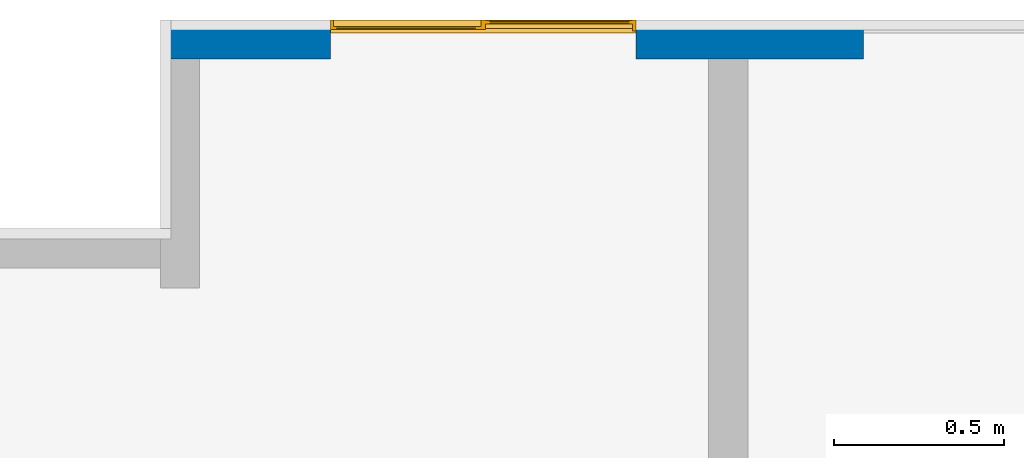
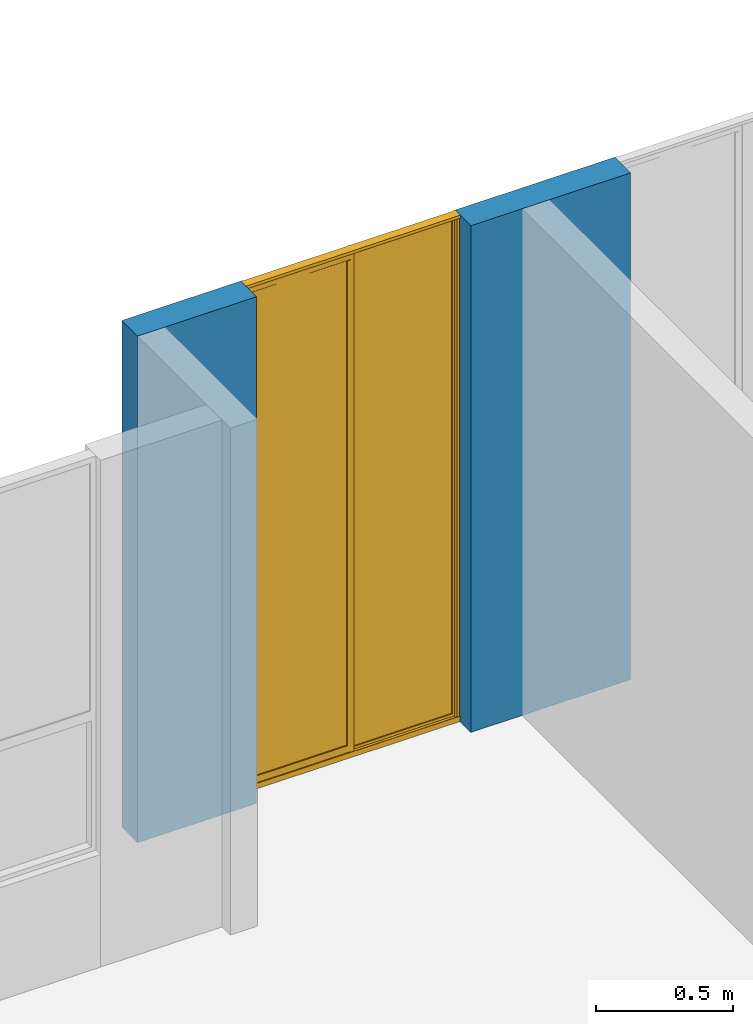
# One storey, part 24 of 48: 1 wall, 1 window, 2 openings.
"""IFC4 building model written with IfcOpenShell, lengths in metres."""

from ifc_helpers import new_model, entity, si_unit, converted_unit, derived_unit, direction, frame, origin, place, context, subcontext, project, spatial, indexed_curve, outline, extrude, polygons, source, transform, mapped, material, constituent, constituent_set, type_object, type_shapes, element, fill, save


model = new_model("IFC4")

# Units and contexts
model_context = context("Model", 3, precision=1e-05, world=origin(), true_north=direction((6.123031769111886e-17, 1.0)))
body_context = subcontext(model_context, "Body", "Model", "MODEL_VIEW")
ifc_project = project(units=[si_unit("LENGTHUNIT", "METRE"), si_unit("AREAUNIT", "SQUARE_METRE"), si_unit("VOLUMEUNIT", "CUBIC_METRE"), converted_unit("PLANEANGLEUNIT", "DEGREE", entity("IfcRatioMeasure", 0.017453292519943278), si_unit("PLANEANGLEUNIT", "RADIAN"), dimensions=[0, 0, 0, 0, 0, 0, 0]), si_unit("MASSUNIT", "GRAM", prefix="KILO"), derived_unit("MASSDENSITYUNIT", [(si_unit("MASSUNIT", "GRAM", prefix="KILO"), 1), (si_unit("LENGTHUNIT", "METRE"), -3)]), derived_unit("IONCONCENTRATIONUNIT", [(si_unit("MASSUNIT", "GRAM", prefix="KILO"), 1), (si_unit("LENGTHUNIT", "METRE"), -3)]), derived_unit("MOMENTOFINERTIAUNIT", [(si_unit("LENGTHUNIT", "METRE"), 4)]), si_unit("TIMEUNIT", "SECOND"), si_unit("FREQUENCYUNIT", "HERTZ"), si_unit("THERMODYNAMICTEMPERATUREUNIT", "DEGREE_CELSIUS"), derived_unit("THERMALTRANSMITTANCEUNIT", [(si_unit("MASSUNIT", "GRAM", prefix="KILO"), 1), (si_unit("THERMODYNAMICTEMPERATUREUNIT", "KELVIN"), -1), (si_unit("TIMEUNIT", "SECOND"), -3)]), derived_unit("THERMALCONDUCTANCEUNIT", [(si_unit("MASSUNIT", "GRAM", prefix="KILO"), 1), (si_unit("THERMODYNAMICTEMPERATUREUNIT", "KELVIN"), -1), (si_unit("TIMEUNIT", "SECOND"), -3), (si_unit("LENGTHUNIT", "METRE"), 1)]), derived_unit("VOLUMETRICFLOWRATEUNIT", [(si_unit("LENGTHUNIT", "METRE"), 3), (si_unit("TIMEUNIT", "SECOND"), -1)]), derived_unit("MASSFLOWRATEUNIT", [(si_unit("MASSUNIT", "GRAM", prefix="KILO"), 1), (si_unit("TIMEUNIT", "SECOND"), -1)]), derived_unit("ROTATIONALFREQUENCYUNIT", [(si_unit("TIMEUNIT", "SECOND"), -1)]), si_unit("ELECTRICCURRENTUNIT", "AMPERE"), si_unit("ELECTRICVOLTAGEUNIT", "VOLT"), si_unit("POWERUNIT", "WATT"), si_unit("FORCEUNIT", "NEWTON", prefix="KILO"), si_unit("ILLUMINANCEUNIT", "LUX"), si_unit("LUMINOUSFLUXUNIT", "LUMEN"), si_unit("LUMINOUSINTENSITYUNIT", "CANDELA"), derived_unit("USERDEFINED", [(si_unit("MASSUNIT", "GRAM", prefix="KILO"), -1), (si_unit("LENGTHUNIT", "METRE"), -2), (si_unit("TIMEUNIT", "SECOND"), 3), (si_unit("LUMINOUSFLUXUNIT", "LUMEN"), 1)]), derived_unit("USERDEFINED", [(si_unit("MASSUNIT", "GRAM", prefix="KILO"), 1), (si_unit("TIMEUNIT", "SECOND"), -3), (si_unit("LENGTHUNIT", "METRE"), 3), (si_unit("ELECTRICCURRENTUNIT", "AMPERE"), -2)]), derived_unit("SOUNDPOWERUNIT", [(si_unit("MASSUNIT", "GRAM", prefix="KILO"), 1), (si_unit("TIMEUNIT", "SECOND"), -3), (si_unit("LENGTHUNIT", "METRE"), 2)]), derived_unit("SOUNDPRESSUREUNIT", [(si_unit("MASSUNIT", "GRAM", prefix="KILO"), 1), (si_unit("LENGTHUNIT", "METRE"), -1), (si_unit("TIMEUNIT", "SECOND"), -2)]), derived_unit("LINEARVELOCITYUNIT", [(si_unit("LENGTHUNIT", "METRE"), 1), (si_unit("TIMEUNIT", "SECOND"), -1)]), si_unit("PRESSUREUNIT", "PASCAL"), derived_unit("USERDEFINED", [(si_unit("MASSUNIT", "GRAM", prefix="KILO"), 1), (si_unit("LENGTHUNIT", "METRE"), -2), (si_unit("TIMEUNIT", "SECOND"), -2)]), derived_unit("LINEARFORCEUNIT", [(si_unit("MASSUNIT", "GRAM", prefix="KILO"), 1), (si_unit("TIMEUNIT", "SECOND"), -2)]), derived_unit("PLANARFORCEUNIT", [(si_unit("MASSUNIT", "GRAM", prefix="KILO"), 1), (si_unit("LENGTHUNIT", "METRE"), -1), (si_unit("TIMEUNIT", "SECOND"), -2)]), derived_unit("SPECIFICHEATCAPACITYUNIT", [(si_unit("THERMODYNAMICTEMPERATUREUNIT", "KELVIN"), -1), (si_unit("LENGTHUNIT", "METRE"), 2), (si_unit("TIMEUNIT", "SECOND"), -2)]), derived_unit("HEATINGVALUEUNIT", [(si_unit("LENGTHUNIT", "METRE"), 2), (si_unit("TIMEUNIT", "SECOND"), -2)]), derived_unit("VAPORPERMEABILITYUNIT", [(si_unit("LENGTHUNIT", "METRE"), -1), (si_unit("TIMEUNIT", "SECOND"), 1)]), derived_unit("DYNAMICVISCOSITYUNIT", [(si_unit("MASSUNIT", "GRAM", prefix="KILO"), 1), (si_unit("TIMEUNIT", "SECOND"), -1), (si_unit("LENGTHUNIT", "METRE"), -1)]), derived_unit("THERMALEXPANSIONCOEFFICIENTUNIT", [(si_unit("THERMODYNAMICTEMPERATUREUNIT", "KELVIN"), -1)]), derived_unit("MODULUSOFELASTICITYUNIT", [(si_unit("MASSUNIT", "GRAM", prefix="KILO"), 1), (si_unit("LENGTHUNIT", "METRE"), -1), (si_unit("TIMEUNIT", "SECOND"), -2)]), derived_unit("ISOTHERMALMOISTURECAPACITYUNIT", [(si_unit("LENGTHUNIT", "METRE"), 3), (si_unit("MASSUNIT", "GRAM", prefix="KILO"), -1)]), derived_unit("MOISTUREDIFFUSIVITYUNIT", [(si_unit("TIMEUNIT", "SECOND"), -1), (si_unit("LENGTHUNIT", "METRE"), 2)])], contexts=[model_context])

# Site, building, storey
site_placement = place(None, origin())
site = spatial("IfcSite", under=ifc_project, at=site_placement, Name="Default", CompositionType="ELEMENT")
building_placement = place(site_placement, origin())
building = spatial("IfcBuilding", under=site, at=building_placement, CompositionType="ELEMENT")
storey_placement = place(building_placement, frame((0.0, 0.0, 9.40000000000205)))
storey = spatial("IfcBuildingStorey", under=building, at=storey_placement, Name="Nivel 5", CompositionType="ELEMENT", Elevation=9.40000000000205)

# Wall, openings, window
ifc_material_1 = material(Name="Ladrillo claro (Aire)", Category="Materials")
wall_type = type_object("IfcWallType", Name="Basic Wall:B2010 - 0.115m - Muro exterior en mampostería - Ladrillo", PredefinedType="STANDARD")
wall_placement = place(storey_placement, frame((12.462500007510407, -0.03750002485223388, 0.0)))
wall = element("IfcWall", 1, at=wall_placement, inside=storey, type_object=wall_type, material=ifc_material_1, Name="Basic Wall:B2010 - 0.115m - Muro exterior en mampostería - Ladrillo", ObjectType="Basic Wall:B2010 - 0.115m - Muro exterior en mampostería - Ladrillo", PredefinedType="NOTDEFINED", context=body_context, shape_type="Tessellation", body=[
    polygons([(5.381729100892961e-16, -0.0575, 2.250000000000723), (5.381729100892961e-16, -0.0575, -1.0828671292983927e-15), (0.1150000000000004, -0.05749999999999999, -1.0828671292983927e-15), (0.5000000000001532, -0.05749999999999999, -1.0828671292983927e-15), (0.5000000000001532, -0.05749999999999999, 2.250000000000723), (0.1150000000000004, -0.05749999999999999, 2.250000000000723), (-1.1329938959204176e-16, 0.0575, -1.0828671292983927e-15), (0.5000000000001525, 0.05749999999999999, -1.0828671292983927e-15), (-1.1329938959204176e-16, 0.0575, 2.250000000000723), (0.5000000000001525, 0.05749999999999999, 2.250000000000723)], [[[1, 2, 3, 4, 5, 6]], [[2, 7, 8, 4, 3]], [[2, 1, 9, 7]], [[5, 4, 8, 10]], [[9, 1, 6, 5, 10]], [[7, 9, 10, 8]]], closed=True),
    polygons([(1.4000000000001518, 0.0575, -1.0828671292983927e-15), (1.4000000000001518, 0.0575, 2.250000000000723), (2.0707999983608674, 0.05750000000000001, 2.250000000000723), (2.0707999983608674, 0.0575, -1.0828671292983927e-15), (1.4000000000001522, -0.05749999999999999, 2.250000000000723), (1.6149999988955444, -0.05749999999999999, 2.250000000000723), (1.7299999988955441, -0.05749999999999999, 2.250000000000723), (2.0707999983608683, -0.05749999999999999, 2.250000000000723), (2.0707999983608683, -0.05749999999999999, -1.0828671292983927e-15), (1.4000000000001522, -0.05749999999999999, -1.0828671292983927e-15), (1.7299999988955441, -0.05749999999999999, -1.0828671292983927e-15), (1.6149999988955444, -0.05749999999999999, -1.0828671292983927e-15)], [[[1, 2, 3, 4]], [[2, 5, 6, 7, 8, 3]], [[8, 9, 4, 3]], [[10, 5, 2, 1]], [[10, 1, 4, 9, 11, 12]], [[5, 10, 12, 11, 9, 8, 7, 6]]], closed=True),
])
opening_1_placement = place(wall_placement, frame((1.4000000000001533, 0.05749999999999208, 0.0)))
opening_1 = element("IfcOpeningElement", 2, at=opening_1_placement, cuts=wall, Name="B2020 - Ventana corrediza 2C - Aluminio + Vidrio:B2020 - 0.90m x 2.25m - Ventana corrediza 2C - Aluminio + Vidrio:1", PredefinedType="OPENING", context=body_context, shape_type="SweptSolid", body=[
    extrude(outline(indexed_curve([(0.0, 1.3535839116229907e-16), (2.2499999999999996, 1.3535839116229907e-16), (2.249999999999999, 0.9), (0.0, 0.9), (0.0, 1.3535839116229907e-16)], self_intersect=False)), frame((0.0, 0.0, 0.0), z_axis=(0.0, -1.0, 0.0), x_axis=(0.0, 0.0, 1.0)), (0.0, 0.0, 1.0), 0.115),
])
opening_2_placement = place(wall_placement, frame((3.0907999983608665, 0.057499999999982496, 0.0)))
element("IfcOpeningElement", 3, at=opening_2_placement, cuts=wall, Name="B2020 - Ventana corrediza 2C - Aluminio + Vidrio:B2020 - 1.02m x 2.25m - Ventana corrediza 2C - Aluminio + Vidrio:1", PredefinedType="OPENING", context=body_context, shape_type="SweptSolid", body=[
    extrude(outline(indexed_curve([(0.0, -9.331723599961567e-34), (2.2499999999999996, -9.331723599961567e-34), (2.249999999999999, 1.0199999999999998), (0.0, 1.0199999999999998), (0.0, -9.331723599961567e-34)], self_intersect=False)), frame((0.0, 0.0, 0.0), z_axis=(0.0, -1.0, 0.0), x_axis=(0.0, 0.0, 1.0)), (0.0, 0.0, 1.0), 0.115),
])
ifc_material_2 = material(Name="Vidrio", Category="Materials")
ifc_constituent_1 = constituent(ifc_material_2, Name="Vidrio", Category="Materials")
ifc_material_3 = material(Name="<Unnamed>")
ifc_constituent_2 = constituent(ifc_material_3, Name="<Unnamed>")
ifc_constituent_set_1 = constituent_set(constituents=[ifc_constituent_1, ifc_constituent_2])
ifc_constituent_3 = constituent(ifc_material_2, Name="Vidrio", Category="Materials")
ifc_constituent_4 = constituent(ifc_material_3, Name="<Unnamed>")
ifc_constituent_set_2 = constituent_set(constituents=[ifc_constituent_3, ifc_constituent_4])
window_type = type_object("IfcWindowType", Name="B2020 - Ventana corrediza 2C - Aluminio + Vidrio:B2020 - 0.90m x 2.25m - Ventana corrediza 2C - Aluminio + Vidrio", PartitioningType="NOTDEFINED", PredefinedType="WINDOW", material=ifc_constituent_set_2)
shared_shape = source(origin(), body_context, "Body", "Tessellation", [
    polygons([(0.4701871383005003, 0.11311505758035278, 0.028641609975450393), (0.8800323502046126, 0.11311505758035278, 0.028641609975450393), (0.8800323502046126, 0.10801372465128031, 0.028641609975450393), (0.4701871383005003, 0.10801372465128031, 0.028641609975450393), (0.4701871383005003, 0.11311505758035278, 2.2347073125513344), (0.4701871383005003, 0.10801372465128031, 2.2347073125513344), (0.8800323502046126, 0.10801372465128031, 2.2347073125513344), (0.8800323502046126, 0.11311505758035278, 2.2347073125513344)], [[[1, 2, 3, 4]], [[5, 1, 4, 6]], [[6, 4, 3, 7]], [[7, 3, 2, 8]], [[8, 2, 1, 5]], [[5, 6, 7, 8]]], closed=True),
    polygons([(0.01884633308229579, 0.0962952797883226, 0.054189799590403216), (0.4282710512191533, 0.0962952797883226, 0.054189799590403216), (0.4282710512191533, 0.09199928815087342, 0.054189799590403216), (0.01884633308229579, 0.09199928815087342, 0.054189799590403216), (0.01884633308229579, 0.0962952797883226, 2.2043993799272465), (0.01884633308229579, 0.09199928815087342, 2.2043993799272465), (0.4282710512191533, 0.09199928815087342, 2.2043993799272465), (0.4282710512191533, 0.0962952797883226, 2.2043993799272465)], [[[1, 2, 3, 4]], [[5, 1, 4, 6]], [[6, 4, 3, 7]], [[7, 3, 2, 8]], [[8, 2, 1, 5]], [[5, 6, 7, 8]]], closed=True),
    polygons([(1.610764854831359e-14, 0.08248628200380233, 0.020380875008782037), (1.610764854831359e-14, 0.07981389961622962, 0.020380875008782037), (1.610764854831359e-14, 0.07981389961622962, 0.025674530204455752), (1.610764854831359e-14, 0.08106389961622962, 0.025674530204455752), (1.610764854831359e-14, 0.08106389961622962, 0.02163087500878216), (1.610764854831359e-14, 0.08373628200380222, 0.02163087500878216), (1.610764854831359e-14, 0.08373628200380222, 0.017447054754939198), (1.610764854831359e-14, 0.08932238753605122, 0.017447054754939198), (1.610764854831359e-14, 0.08932238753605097, 2.24863686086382), (1.5972290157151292e-14, 0.0810593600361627, 2.24863686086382), (1.5972290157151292e-14, 0.0810593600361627, 2.2365872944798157), (1.5972290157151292e-14, 0.07969622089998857, 2.2365872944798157), (1.5972290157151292e-14, 0.07969622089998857, 2.2499999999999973), (1.610764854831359e-14, 0.11748628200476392, 2.2499999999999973), (1.5972290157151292e-14, 0.1174862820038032, -2.5718094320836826e-15), (1.610764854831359e-14, 0.08248628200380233, -2.5718094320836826e-15), (0.900000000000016, 0.08248628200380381, 0.020380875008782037), (0.900000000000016, 0.08248628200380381, -2.5718094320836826e-15), (0.900000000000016, 0.11748628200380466, -2.5718094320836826e-15), (0.45664549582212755, 0.11748628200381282, 2.2499999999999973), (0.45664549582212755, 0.11748628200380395, 0.006176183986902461), (0.8900000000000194, 0.11748628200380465, 0.006176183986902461), (0.8900000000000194, 0.11748628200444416, 2.2499999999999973), (0.900000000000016, 0.11748628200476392, 2.2499999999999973), (0.009897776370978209, 0.11748628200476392, 2.2499999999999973), (0.009897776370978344, 0.1174862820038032, 0.006176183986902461), (0.4433545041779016, 0.11748628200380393, 0.006176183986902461), (0.4433545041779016, 0.11748628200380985, 2.2499999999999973), (0.016298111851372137, 0.0893223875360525, 2.2069861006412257), (0.4433545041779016, 0.0893223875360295, 2.2069861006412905), (0.4433545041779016, 0.08932238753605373, 2.2043993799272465), (0.430819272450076, 0.08932238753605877, 2.2043993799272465), (0.4308192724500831, 0.08932238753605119, 0.0519155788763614), (0.01629811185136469, 0.08932238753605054, 0.0519155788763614), (0.016298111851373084, 0.08932238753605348, 2.237270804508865), (0.01629811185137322, 0.08932238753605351, 2.24863686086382), (0.0037628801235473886, 0.08932238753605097, 0.017447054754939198), (0.0037628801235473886, 0.0893223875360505, 0.02163087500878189), (0.4433545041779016, 0.0893223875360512, 0.021630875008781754), (0.4433545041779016, 0.08932238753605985, 0.017447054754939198), (0.4580471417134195, 0.08932238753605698, 0.017447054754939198), (0.4580471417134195, 0.0893223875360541, 2.24863686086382), (0.4433545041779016, 0.08932238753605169, 2.24863686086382), (0.4433545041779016, 0.08932238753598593, 2.237270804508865), (0.900000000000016, 0.08373628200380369, 0.017447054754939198), (0.900000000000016, 0.08548628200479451, 0.017447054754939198), (0.8900000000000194, 0.08548628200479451, 0.017447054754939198), (0.8900000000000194, 0.09284764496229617, 0.017447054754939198), (0.4580471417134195, 0.09284764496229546, 0.017447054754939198), (0.4433545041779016, 0.09284764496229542, 0.017447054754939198), (0.0037628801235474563, 0.09284764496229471, 0.017447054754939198), (0.900000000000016, 0.08373628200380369, 0.02163087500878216), (0.900000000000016, 0.08106389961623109, 0.02163087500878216), (0.900000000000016, 0.08106389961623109, 0.025674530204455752), (0.900000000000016, 0.07981389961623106, 0.025674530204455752), (0.900000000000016, 0.07981389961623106, 0.020380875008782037), (0.01884290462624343, 0.09629339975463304, 0.054191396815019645), (0.4282772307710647, 0.09629080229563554, 0.054191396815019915), (0.4308192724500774, 0.09897218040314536, 0.051915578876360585), (0.016298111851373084, 0.09897218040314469, 0.051915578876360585), (0.01629811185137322, 0.09897218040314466, 2.237270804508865), (0.01629811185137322, 0.09897218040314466, 2.24863686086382), (0.018846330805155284, 0.0962732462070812, 2.24863686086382), (0.018846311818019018, 0.0962733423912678, 2.237270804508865), (0.430819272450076, 0.09897218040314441, 2.2043993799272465), (0.4433545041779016, 0.09897218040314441, 2.2043993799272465), (0.4433545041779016, 0.09897218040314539, 0.02163087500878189), (0.009897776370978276, 0.09897218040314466, 0.021630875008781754), (0.009897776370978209, 0.09897218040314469, 2.24863686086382), (0.4433545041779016, 0.09897218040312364, 2.237270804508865), (0.4433545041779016, 0.09897218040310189, 2.2069861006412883), (0.01629811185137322, 0.09897218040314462, 2.2069861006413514), (0.4282710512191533, 0.09628602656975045, 2.2043993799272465), (0.01884015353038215, 0.09200376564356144, 0.05419139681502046), (0.42827447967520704, 0.09200116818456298, 0.05419139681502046), (0.018846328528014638, 0.09202132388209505, 2.24863686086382), (0.01884629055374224, 0.09202124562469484, 2.237270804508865), (0.4282710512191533, 0.09200843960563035, 2.204399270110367), (0.4580471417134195, 0.09284764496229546, 0.011279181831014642), (0.4580471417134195, 0.09612320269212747, 0.010600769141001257), (0.4580471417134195, 0.09612320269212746, 0.014402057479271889), (0.4580471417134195, 0.10582811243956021, 0.014402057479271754), (0.4580471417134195, 0.1058281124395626, 2.24863686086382), (0.4433545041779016, 0.09199945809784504, 2.204399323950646), (0.0037628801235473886, 0.09897218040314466, 0.02163087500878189), (0.0037628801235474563, 0.09284764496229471, 0.011279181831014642), (0.0037628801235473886, 0.09897218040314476, 0.010010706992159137), (0.009897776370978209, 0.09897218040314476, 0.010010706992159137), (0.009897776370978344, 0.1153006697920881, 2.2499999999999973), (0.009897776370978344, 0.11530066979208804, 2.2369062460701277), (0.009897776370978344, 0.11310173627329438, 2.234707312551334), (0.009897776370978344, 0.1080270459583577, 2.234707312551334), (0.009897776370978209, 0.10582811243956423, 2.2369062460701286), (0.009897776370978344, 0.10582811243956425, 2.24863686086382), (0.900000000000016, 0.07969622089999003, 2.2499999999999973), (0.900000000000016, 0.07969622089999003, 2.2365872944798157), (0.900000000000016, 0.08105936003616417, 2.2365872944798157), (0.900000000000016, 0.08105936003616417, 2.24863686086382), (0.900000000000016, 0.08548628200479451, 2.24863686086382), (0.8900000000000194, 0.08548628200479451, 2.24863686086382), (0.8900000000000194, 0.09284764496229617, 0.011279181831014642), (0.8900000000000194, 0.10582811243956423, 2.24863686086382), (0.8900000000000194, 0.10582811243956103, 0.014402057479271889), (0.8900000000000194, 0.09612320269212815, 0.014402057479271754), (0.8900000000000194, 0.09612320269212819, 0.010600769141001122), (0.45664549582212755, 0.1153006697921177, 0.006628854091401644), (0.45664549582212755, 0.11530066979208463, 2.2499999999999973), (0.8900000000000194, 0.11530066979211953, 0.0066288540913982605), (0.8900000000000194, 0.11530066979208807, 2.2499999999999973), (0.4433545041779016, 0.11530066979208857, 2.2499999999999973), (0.4433545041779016, 0.1153006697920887, 2.2369062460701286), (0.4676389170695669, 0.11530066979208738, 0.026824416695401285), (0.46763891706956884, 0.11530066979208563, 2.236906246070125), (0.4701871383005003, 0.1131150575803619, 2.234713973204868), (0.4701871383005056, 0.11311505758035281, 0.028641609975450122), (0.8800323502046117, 0.11311505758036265, 0.028641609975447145), (0.8800323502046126, 0.11311505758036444, 2.2347139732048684), (0.8825805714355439, 0.11530066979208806, 2.236906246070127), (0.8825805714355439, 0.1153006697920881, 0.026824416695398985), (0.8800323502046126, 0.10801372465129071, 0.02864160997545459), (0.47018713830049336, 0.10801372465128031, 0.028641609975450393), (0.46763891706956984, 0.10582811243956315, 0.02682441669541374), (0.8825805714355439, 0.10582811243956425, 0.026824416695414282), (0.46763891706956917, 0.10582811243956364, 2.2369062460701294), (0.8825805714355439, 0.10582811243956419, 2.2369062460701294), (0.8800311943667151, 0.108016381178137, 2.2347113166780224), (0.47018829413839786, 0.10801638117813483, 2.234711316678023), (0.4433545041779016, 0.09629516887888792, 2.204399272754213), (0.018846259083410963, 0.09627365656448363, 2.204388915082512), (0.018844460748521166, 0.09201660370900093, 2.2043931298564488), (0.4433545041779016, 0.10582811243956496, 2.24863686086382), (0.4433545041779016, 0.10802704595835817, 2.2347073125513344), (0.4433545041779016, 0.10582811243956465, 2.2369062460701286), (0.4433545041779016, 0.11310173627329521, 2.2347073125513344), (0.4433545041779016, 0.09284764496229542, 0.011279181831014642)], [[[1, 2, 3, 4, 5, 6, 7, 8, 9, 10, 11, 12, 13, 14, 15, 16]], [[17, 1, 16, 18]], [[16, 15, 19, 18]], [[20, 21, 22, 23, 24, 19, 15, 14, 25, 26, 27, 28]], [[35, 36, 9, 8, 37, 38, 39, 40, 41, 42, 43, 44], [29, 30, 31, 32, 33, 34]], [[45, 46, 47, 48, 49, 41, 40, 50, 51, 37, 8, 7]], [[45, 7, 6, 52]], [[52, 6, 5, 53]], [[53, 5, 4, 54]], [[54, 4, 3, 55]], [[55, 3, 2, 56]], [[56, 2, 1, 17]], [[57, 58, 59, 60]], [[61, 62, 63, 64]], [[60, 59, 65, 66, 67, 68, 69, 62, 61, 70, 71, 72]], [[65, 59, 58, 73]], [[74, 75, 58, 57]], [[64, 63, 76, 77]], [[58, 75, 78, 73]], [[34, 33, 75, 74]], [[77, 76, 36, 35]], [[78, 75, 33, 32]], [[49, 79, 80, 81, 82, 83, 42, 41]], [[84, 31, 30]], [[39, 38, 85, 68, 67]], [[85, 38, 37, 51, 86, 87]], [[68, 85, 87, 88]], [[25, 89, 90, 91, 92, 93, 94, 69, 68, 88, 26]], [[17, 18, 19, 24, 95, 96, 97, 98, 99, 46, 45, 52, 53, 54, 55, 56]], [[46, 99, 100, 47]], [[49, 48, 101, 79]], [[47, 100, 102, 103, 104, 105, 101, 48]], [[79, 101, 105, 80]], [[106, 21, 20, 107]], [[23, 22, 108, 109]], [[110, 111, 90, 89]], [[80, 105, 104, 81]], [[112, 113, 114, 115]], [[116, 117, 118, 119]], [[119, 112, 115, 116]], [[120, 121, 122, 123]], [[103, 102, 83, 82], [122, 124, 125, 123]], [[123, 125, 126, 120]], [[121, 127, 124, 122]], [[81, 104, 103, 82]], [[120, 126, 117, 116]], [[116, 115, 121, 120]], [[115, 114, 127, 121]], [[13, 95, 24, 23, 109, 107, 20, 28, 110, 89, 25, 14]], [[72, 71, 128, 73, 129]], [[129, 73, 78, 130]], [[130, 78, 84, 30, 29]], [[77, 35, 44, 70, 61, 64]], [[31, 84, 78, 32]], [[97, 11, 10, 98]], [[96, 12, 11, 97]], [[95, 13, 12, 96]], [[118, 117, 114, 113]], [[127, 114, 117, 126]], [[124, 127, 126, 125]], [[10, 9, 36, 76, 63, 62, 69, 94, 131, 43, 42, 83, 102, 100, 99, 98]], [[132, 133, 93, 92]], [[134, 132, 92, 91]], [[111, 134, 91, 90]], [[73, 128, 66, 65]], [[133, 131, 94, 93]], [[109, 108, 106, 107], [112, 119, 118, 113]], [[106, 108, 22, 21]], [[27, 26, 88, 87, 86, 135]], [[135, 86, 51, 50]], [[27, 135, 50, 40, 39, 67, 66, 128, 71, 70, 44, 43, 131, 133, 132, 134, 111, 110, 28]], [[74, 130, 29, 34]], [[57, 129, 130, 74]], [[60, 72, 129, 57]]], closed=True),
])
type_shapes(window_type, [shared_shape])
window_placement = place(opening_1_placement, frame((-0.9000000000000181, -0.11748628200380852, 0.0)))
window = element("IfcWindow", 4, at=window_placement, inside=storey, type_object=window_type, material=ifc_constituent_set_1, Name="B2020 - Ventana corrediza 2C - Aluminio + Vidrio:B2020 - 0.90m x 2.25m - Ventana corrediza 2C - Aluminio + Vidrio", ObjectType="B2020 - Ventana corrediza 2C - Aluminio + Vidrio:B2020 - 0.90m x 2.25m - Ventana corrediza 2C - Aluminio + Vidrio", OverallHeight=2.2499999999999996, OverallWidth=0.899999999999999, PartitioningType="NOTDEFINED", PredefinedType="WINDOW", context=body_context, shape_type="MappedRepresentation", body=[
    mapped(shared_shape, transform((0.0, 0.0, 0.0), scale=1.0)),
])
fill(opening_1, window)

save(model, "model.ifc")
